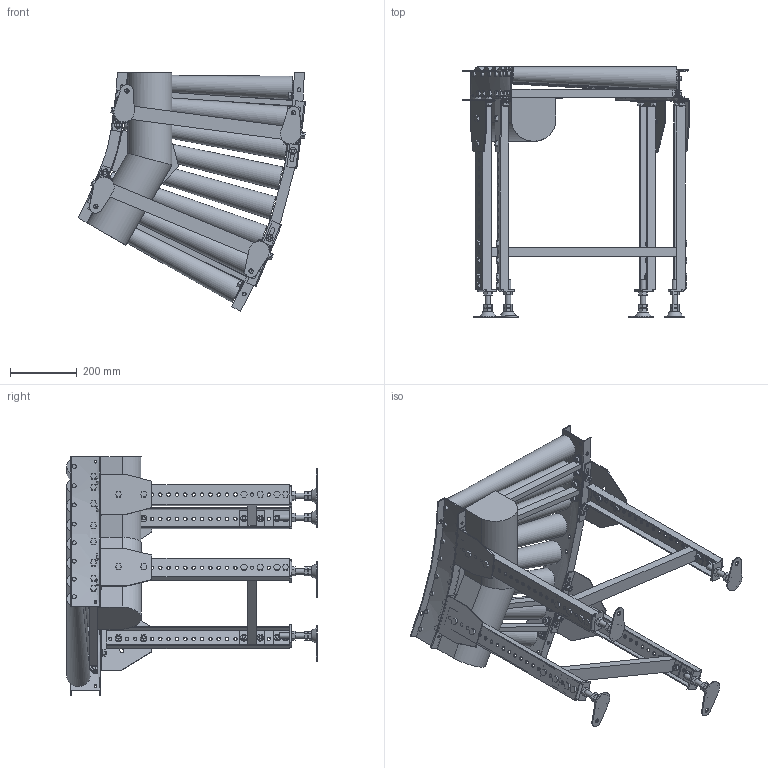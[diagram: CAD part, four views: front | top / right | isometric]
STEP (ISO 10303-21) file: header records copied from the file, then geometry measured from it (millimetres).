
FILE_DESCRIPTION( (''), '2;1');
FILE_NAME ('WEB-MCD-50-500-75-30°-C9.stp','2026-02-20T12:16:00',(''),(''),'spGate 20.6.2 (****-****-****-****)','','');
FILE_SCHEMA (('AUTOMOTIVE_DESIGN'));
Length unit declared in the file: millimetre
Products named in the file (30): WEB-MCD-50-500-75-30_-C9; TEMP_X_T-prt0; TEMP_X_T-prt1; TEMP_X_T-prt2; TEMP_X_T-prt3; TEMP_X_T-prt4; TEMP_X_T-prt5; TEMP_X_T-prt6; TEMP_X_T-prt7; TEMP_X_T-prt8; TEMP_X_T-prt9; TEMP_X_T-prt10; TEMP_X_T-prt11; TEMP_X_T-prt12; TEMP_X_T-prt13; TEMP_X_T-prt14; TEMP_X_T-prt15; TEMP_X_T-prt16; TEMP_X_T-prt17; TEMP_X_T-prt18; TEMP_X_T-prt19; TEMP_X_T-prt20; TEMP_X_T-prt21; TEMP_X_T-prt22; TEMP_X_T-prt23; TEMP_X_T-prt24; TEMP_X_T-prt25; TEMP_X_T-prt26; TEMP_X_T-prt27; TEMP_X_T-prt28
Assembly tree (29 placements, depth 2):
  WEB-MCD-50-500-75-30_-C9
    TEMP_X_T-prt0
    TEMP_X_T-prt1
    TEMP_X_T-prt2
    TEMP_X_T-prt3
    TEMP_X_T-prt4
    TEMP_X_T-prt5
    TEMP_X_T-prt6
    TEMP_X_T-prt7
    TEMP_X_T-prt8
    TEMP_X_T-prt9
    TEMP_X_T-prt10
    TEMP_X_T-prt11
    TEMP_X_T-prt12
    TEMP_X_T-prt13
    TEMP_X_T-prt14
    TEMP_X_T-prt15
    TEMP_X_T-prt16
    TEMP_X_T-prt17
    TEMP_X_T-prt18
    TEMP_X_T-prt19
    TEMP_X_T-prt20
    TEMP_X_T-prt21
    TEMP_X_T-prt22
    TEMP_X_T-prt23
    TEMP_X_T-prt24
    TEMP_X_T-prt25
    TEMP_X_T-prt26
    TEMP_X_T-prt27
    TEMP_X_T-prt28
Bounding box: 679.97 x 749.97 x 715 mm (x, y, z)
Volume: 22739559.2 mm3; surface area: 2562909.3 mm2
Topology: 29 solids, 51 shells, 2109 faces, 5091 edges, 3276 vertices
Faces by surface type: plane 1780, cylinder 317, bspline 12
Full cylindrical faces by diameter (mm): 8.5 x6, 10 x56, 10.5 x92, 11 x4, 12 x16, 13 x4, 14 x5, 16 x4, 18.4 x40, 18.5 x8, 21 x24
Entity records: 105931 total; most frequent: CARTESIAN_POINT 12839, DIRECTION 10605, ORIENTED_EDGE 10182, COLOUR_RGB 7229, PRESENTATION_STYLE_ASSIGNMENT 7229, STYLED_ITEM 7229, EDGE_CURVE 5091, DRAUGHTING_PRE_DEFINED_CURVE_FONT 5091
